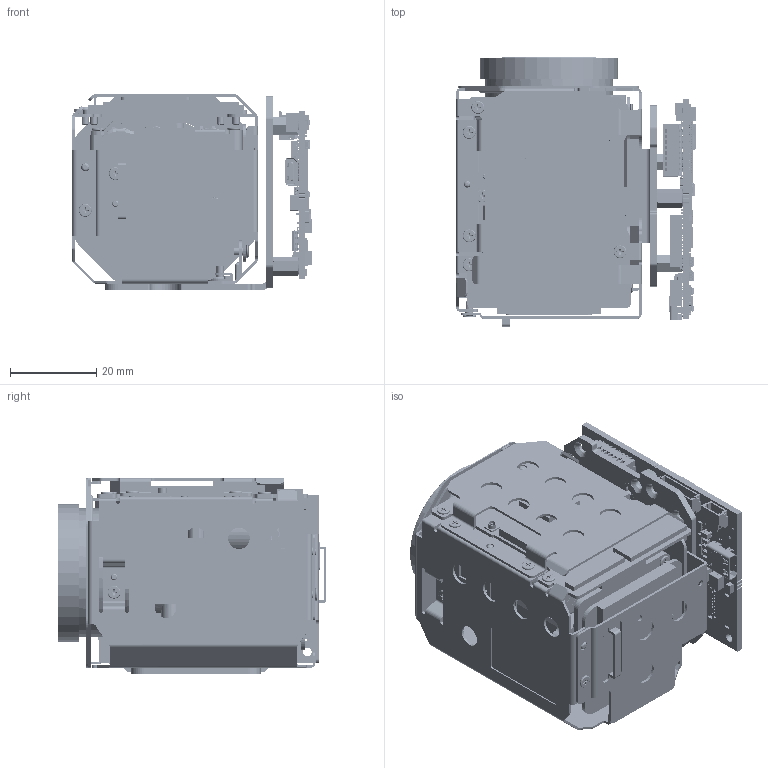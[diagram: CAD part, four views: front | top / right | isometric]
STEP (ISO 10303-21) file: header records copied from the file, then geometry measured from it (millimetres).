
FILE_DESCRIPTION( ( 'Unknown' ), '1' );
FILE_NAME( 'Q:/2003/Product3DCADModels/STEP-test/mm-ap23c05-0108-0101.stp', 'Unknown', ( 'Unknown' ), ( 'Unknown' ), 'PSStep 17.0.49', 'Unknown', ' ' );
FILE_SCHEMA( ( 'AUTOMOTIVE_DESIGN { 1 0 10303 214 1 1 1 1 }' ) );
Length unit declared in the file: millimetre
Products named in the file (342): 1004_ASM_1_ASM_ASM_1_ASM_ASM; BREP_WITH_VOIDS_287126_1; MANIFOLD_SOLID_BREP_287488_1; MANIFOLD_SOLID_BREP_287526_1; MANIFOLD_SOLID_BREP_293139_1; MANIFOLD_SOLID_BREP_294337_1; _1004_ASM_1_1; MANIFOLD_SOLID_BREP_282864_1; CL0205A-501_ASM_8_ASM_ASM_1_ASM_ASM; CL0205A-501_5_2; CL0205A-301_1_2A; 1009_ASM_1_ASM_ASM_1_ASM_ASM; BREP_WITH_VOIDS_318368_1; MANIFOLD_SOLID_BREP_323969_2; MANIFOLD_SOLID_BREP_333745_2; MANIFOLD_SOLID_BREP_333783_1; MANIFOLD_SOLID_BREP_335141_1; _1009_ASM_1_2; CL0205A-706_5_ASM_ASM_1_ASM_ASM; _CL0205A-706_5_1; CL0205A-503_ASM_11_ASM_ASM_1_AS_ASM; CL0205A-503_13_1; CL0205A-702_4_ASM_ASM_1_ASM_ASM; _CL0205A-702_4_1; Body-1; Open_CASCADE_STEP_translator_6.8_9.2.1; Body-2; Open_CASCADE_STEP_translator_6.8_2.2.1; AS-10A_SENSOR_PCB_ASSY_ASM_1_A_ASM; AS-10A_SENSOR_PCB_1; 102A_SENSOR_1; OLPF-10_9_1; AS-10A_CCD_RUBBER_1; AS-10A_CCD_PLATE_1; Pin_Shape-1; Open_CASCADE_STEP_translator_6.8_9.4.1; CL0205A_ASM_256_ASM_ASM_1_ASM_ASM; CL0205A-505_21_1; CL0205A-506_23_1; CL0201A-705_1_1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
Assembly tree (785 placements, depth 7):
  Assem1
    bracket-0380-01
    G-028-825A  x9
    G-090-651C  x3
    AS-CAM-10LHD-A-01
      ST17353001_1_1  x15
      AS-10LHD_ASS_Y_ASM_ASM
        AS-10A_ASM_ASM_1_ASM_ASM
          AS-10A_BOTTOM_CHASS-1_7
          AS-10A_TOP_CHASS-1_7
          AS-10A_MAIN_PCB_2
          AS-10A_CONTROL_PCB_7
          FRONT_SHEET_2
          CL0205A_ASM_256_ASM_ASM_1_ASM_ASM
            CL0205A-505_21_1
            CL0205A-506_23_1
            CL0201A-705_1_1  x2
            ST17353001_1_1  x5
            ST14302501_1_1  x2
            ST17653001_1_1  x3
            ST17453001_1_1  x3
            ST14503601_2_1  x4
            CL0201A-706_1_1
            CL0205A-501_ASM_8_ASM_ASM_1_ASM_ASM
              CL0205A-501_5_2
              CL0205A-301_1_2A
            CL0205A-503_ASM_11_ASM_ASM_1_AS_ASM
              CL0205A-503_13_1
            CL0205A-702_4_ASM_ASM_1_ASM_ASM
              _CL0205A-702_4_1
              _CL0205A-702_4_1
              _CL0205A-702_4_1
              _CL0205A-702_4_1
              _CL0205A-702_4_1
              _CL0205A-702_4_1
              _CL0205A-702_4_1
              _CL0205A-702_4_1
              _CL0205A-702_4_1
              _CL0205A-702_4_1
            CL0205A-706_5_ASM_ASM_1_ASM_ASM
              _CL0205A-706_5_1
              _CL0205A-706_5_1
              _CL0205A-706_5_1
              _CL0205A-706_5_1
              _CL0205A-706_5_1
              _CL0205A-706_5_1
              _CL0205A-706_5_1
              _CL0205A-706_5_1
              _CL0205A-706_5_1
              _CL0205A-706_5_1
              _CL0205A-706_5_1
              _CL0205A-706_5_1
              _CL0205A-706_5_1
              _CL0205A-706_5_1
              _CL0205A-706_5_1
              _CL0205A-706_5_1
              _CL0205A-706_5_1
              _CL0205A-706_5_1
              _CL0205A-706_5_1
            1004_ASM_1_ASM_ASM_1_ASM_ASM
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Bounding box: 55.55 x 62.4 x 45.5 mm (x, y, z)
Surface area: 82607 mm2 (no closed solid volume)
Topology: 0 solids, 18686 shells, 18687 faces, 98822 edges, 97884 vertices
Faces by surface type: plane 14008, cylinder 3403, cone 416, torus 412, bspline 261, sphere 178, revolution 9
Full cylindrical faces by diameter (mm): 0.018 x4, 0.023 x14, 0.164 x5, 0.224 x1, 0.25 x3, 0.254 x2, 0.3 x1, 0.35 x8, 0.4 x12, 0.432 x2, 0.5 x9, 0.65 x6, 0.7 x5, 0.75 x1, 1 x11, 1.05 x4, 1.1 x2, 1.2 x5, 1.35 x15, 1.4 x6, 1.5 x11, 1.567 x3, 1.6 x30, 1.7 x33, 1.8 x9, 1.85 x1, 1.9 x2, 1.96 x6, 2 x22, 2.1 x5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
Entity records: 793445 total; most frequent: CARTESIAN_POINT 206287, DIRECTION 91693, VERTEX_POINT 66675, ORIENTED_EDGE 66653, EDGE_CURVE 66653, LINE 47700, VECTOR 47700, AXIS2_PLACEMENT_3D 21992
